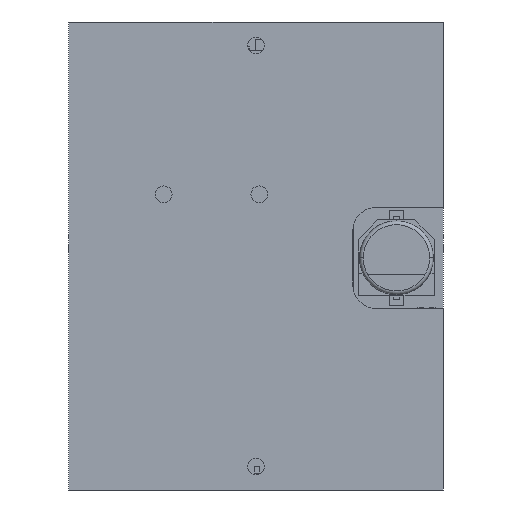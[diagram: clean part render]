
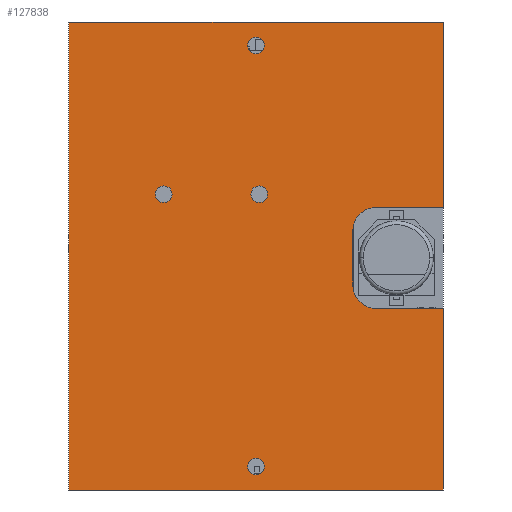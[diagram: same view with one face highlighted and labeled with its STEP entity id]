
A CAD part, front view. The second image highlights one B-rep face of the part: STEP entity #127838.
In plain terms, the highlighted planar face has unit normal (0, -1, 0).
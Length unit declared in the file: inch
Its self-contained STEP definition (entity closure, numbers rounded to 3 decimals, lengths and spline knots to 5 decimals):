
#127273=DIRECTION('',(-1.,0.,0.));
#127274=VECTOR('',#127273,0.358);
#127275=CARTESIAN_POINT('',(2.,0.,-0.28));
#127276=LINE('',#127275,#127274);
#127280=DIRECTION('',(0.,0.,1.));
#127281=VECTOR('',#127280,0.97);
#127282=CARTESIAN_POINT('',(2.,0.,-1.25));
#127283=LINE('',#127282,#127281);
#127287=DIRECTION('',(1.,0.,0.));
#127288=VECTOR('',#127287,2.);
#127289=CARTESIAN_POINT('',(0.,0.,-1.25));
#127290=LINE('',#127289,#127288);
#127294=DIRECTION('',(0.,0.,-1.));
#127295=VECTOR('',#127294,2.5);
#127296=CARTESIAN_POINT('',(0.,0.,1.25));
#127297=LINE('',#127296,#127295);
#127301=DIRECTION('',(-1.,0.,0.));
#127302=VECTOR('',#127301,2.);
#127303=CARTESIAN_POINT('',(2.,0.,1.25));
#127304=LINE('',#127303,#127302);
#127308=DIRECTION('',(0.,0.,1.));
#127309=VECTOR('',#127308,0.99);
#127310=CARTESIAN_POINT('',(2.,0.,0.26));
#127311=LINE('',#127310,#127309);
#127315=DIRECTION('',(1.,0.,0.));
#127316=VECTOR('',#127315,0.358);
#127317=CARTESIAN_POINT('',(1.642,0.,0.26));
#127318=LINE('',#127317,#127316);
#127322=CARTESIAN_POINT('',(1.642,0.,0.135));
#127323=DIRECTION('',(0.,1.,0.));
#127324=DIRECTION('',(-1.,0.,0.));
#127325=AXIS2_PLACEMENT_3D('',#127322,#127323,#127324);
#127330=DIRECTION('',(0.,0.,1.));
#127331=VECTOR('',#127330,0.29);
#127332=CARTESIAN_POINT('',(1.517,0.,-0.155));
#127333=LINE('',#127332,#127331);
#127337=CARTESIAN_POINT('',(1.642,0.,-0.155));
#127338=DIRECTION('',(0.,1.,0.));
#127339=DIRECTION('',(0.,0.,-1.));
#127340=AXIS2_PLACEMENT_3D('',#127337,#127338,#127339);
#127345=CARTESIAN_POINT('',(1.,0.,-1.125));
#127346=DIRECTION('',(0.,1.,0.));
#127347=DIRECTION('',(0.,0.,1.));
#127348=AXIS2_PLACEMENT_3D('',#127345,#127346,#127347);
#127353=CARTESIAN_POINT('',(1.,0.,-1.125));
#127354=DIRECTION('',(0.,1.,0.));
#127355=DIRECTION('',(0.,0.,-1.));
#127356=AXIS2_PLACEMENT_3D('',#127353,#127354,#127355);
#127361=CARTESIAN_POINT('',(0.507,0.,0.33));
#127362=DIRECTION('',(0.,1.,0.));
#127363=DIRECTION('',(0.,0.,1.));
#127364=AXIS2_PLACEMENT_3D('',#127361,#127362,#127363);
#127369=CARTESIAN_POINT('',(0.507,0.,0.33));
#127370=DIRECTION('',(0.,1.,0.));
#127371=DIRECTION('',(0.,0.,-1.));
#127372=AXIS2_PLACEMENT_3D('',#127369,#127370,#127371);
#127377=CARTESIAN_POINT('',(1.017,0.,0.33));
#127378=DIRECTION('',(0.,1.,0.));
#127379=DIRECTION('',(0.,0.,1.));
#127380=AXIS2_PLACEMENT_3D('',#127377,#127378,#127379);
#127385=CARTESIAN_POINT('',(1.017,0.,0.33));
#127386=DIRECTION('',(0.,1.,0.));
#127387=DIRECTION('',(0.,0.,-1.));
#127388=AXIS2_PLACEMENT_3D('',#127385,#127386,#127387);
#127393=CARTESIAN_POINT('',(1.,0.,1.125));
#127394=DIRECTION('',(0.,1.,0.));
#127395=DIRECTION('',(0.,0.,1.));
#127396=AXIS2_PLACEMENT_3D('',#127393,#127394,#127395);
#127401=CARTESIAN_POINT('',(1.,0.,1.125));
#127402=DIRECTION('',(0.,1.,0.));
#127403=DIRECTION('',(0.,0.,-1.));
#127404=AXIS2_PLACEMENT_3D('',#127401,#127402,#127403);
#127600=CARTESIAN_POINT('',(1.517,0.,0.135));
#127601=CARTESIAN_POINT('',(1.642,0.,0.26));
#127602=VERTEX_POINT('',#127600);
#127603=VERTEX_POINT('',#127601);
#127614=CARTESIAN_POINT('',(2.,0.,-0.28));
#127615=CARTESIAN_POINT('',(1.642,0.,-0.28));
#127616=VERTEX_POINT('',#127614);
#127617=VERTEX_POINT('',#127615);
#127618=CARTESIAN_POINT('',(1.017,0.,0.2855));
#127619=CARTESIAN_POINT('',(1.017,0.,0.3745));
#127620=VERTEX_POINT('',#127618);
#127621=VERTEX_POINT('',#127619);
#127626=CARTESIAN_POINT('',(2.,0.,-1.25));
#127627=VERTEX_POINT('',#127626);
#127628=CARTESIAN_POINT('',(1.,0.,1.1695));
#127629=VERTEX_POINT('',#127628);
#127638=CARTESIAN_POINT('',(1.517,0.,-0.155));
#127639=VERTEX_POINT('',#127638);
#127640=CARTESIAN_POINT('',(1.,0.,-1.0805));
#127641=CARTESIAN_POINT('',(1.,0.,-1.1695));
#127642=VERTEX_POINT('',#127640);
#127643=VERTEX_POINT('',#127641);
#127650=CARTESIAN_POINT('',(0.,0.,-1.25));
#127651=VERTEX_POINT('',#127650);
#127652=CARTESIAN_POINT('',(2.,0.,0.26));
#127653=VERTEX_POINT('',#127652);
#127656=CARTESIAN_POINT('',(1.,0.,1.0805));
#127657=VERTEX_POINT('',#127656);
#127660=CARTESIAN_POINT('',(0.,0.,1.25));
#127661=VERTEX_POINT('',#127660);
#127670=CARTESIAN_POINT('',(0.507,0.,0.3745));
#127671=VERTEX_POINT('',#127670);
#127676=CARTESIAN_POINT('',(2.,0.,1.25));
#127677=VERTEX_POINT('',#127676);
#127678=CARTESIAN_POINT('',(0.507,0.,0.2855));
#127679=VERTEX_POINT('',#127678);
#127789=CARTESIAN_POINT('',(0.,0.,1.25));
#127790=DIRECTION('',(0.,1.,0.));
#127791=DIRECTION('',(0.,0.,1.));
#127792=AXIS2_PLACEMENT_3D('',#127789,#127790,#127791);
#127793=PLANE('',#127792);
#127795=ORIENTED_EDGE('',*,*,#127794,.F.);
#127797=ORIENTED_EDGE('',*,*,#127796,.F.);
#127799=ORIENTED_EDGE('',*,*,#127798,.F.);
#127801=ORIENTED_EDGE('',*,*,#127800,.F.);
#127803=ORIENTED_EDGE('',*,*,#127802,.F.);
#127805=ORIENTED_EDGE('',*,*,#127804,.F.);
#127806=ORIENTED_EDGE('',*,*,#127772,.F.);
#127808=ORIENTED_EDGE('',*,*,#127807,.F.);
#127810=ORIENTED_EDGE('',*,*,#127809,.F.);
#127811=ORIENTED_EDGE('',*,*,#127689,.F.);
#127812=EDGE_LOOP('',(#127795,#127797,#127799,#127801,#127803,#127805,#127806,
#127808,#127810,#127811));
#127813=FACE_OUTER_BOUND('',#127812,.F.);
#127815=ORIENTED_EDGE('',*,*,#127814,.F.);
#127817=ORIENTED_EDGE('',*,*,#127816,.F.);
#127818=EDGE_LOOP('',(#127815,#127817));
#127819=FACE_BOUND('',#127818,.F.);
#127821=ORIENTED_EDGE('',*,*,#127820,.F.);
#127823=ORIENTED_EDGE('',*,*,#127822,.F.);
#127824=EDGE_LOOP('',(#127821,#127823));
#127825=FACE_BOUND('',#127824,.F.);
#127827=ORIENTED_EDGE('',*,*,#127826,.F.);
#127829=ORIENTED_EDGE('',*,*,#127828,.F.);
#127830=EDGE_LOOP('',(#127827,#127829));
#127831=FACE_BOUND('',#127830,.F.);
#127833=ORIENTED_EDGE('',*,*,#127832,.F.);
#127835=ORIENTED_EDGE('',*,*,#127834,.F.);
#127836=EDGE_LOOP('',(#127833,#127835));
#127837=FACE_BOUND('',#127836,.F.);
#127326=CIRCLE('',#127325,0.125);
#127341=CIRCLE('',#127340,0.125);
#127349=CIRCLE('',#127348,0.0445);
#127357=CIRCLE('',#127356,0.0445);
#127365=CIRCLE('',#127364,0.0445);
#127373=CIRCLE('',#127372,0.0445);
#127381=CIRCLE('',#127380,0.0445);
#127389=CIRCLE('',#127388,0.0445);
#127397=CIRCLE('',#127396,0.0445);
#127405=CIRCLE('',#127404,0.0445);
#127689=EDGE_CURVE('',#127617,#127639,#127341,.T.);
#127772=EDGE_CURVE('',#127603,#127653,#127318,.T.);
#127794=EDGE_CURVE('',#127616,#127617,#127276,.T.);
#127796=EDGE_CURVE('',#127627,#127616,#127283,.T.);
#127798=EDGE_CURVE('',#127651,#127627,#127290,.T.);
#127800=EDGE_CURVE('',#127661,#127651,#127297,.T.);
#127802=EDGE_CURVE('',#127677,#127661,#127304,.T.);
#127804=EDGE_CURVE('',#127653,#127677,#127311,.T.);
#127807=EDGE_CURVE('',#127602,#127603,#127326,.T.);
#127809=EDGE_CURVE('',#127639,#127602,#127333,.T.);
#127814=EDGE_CURVE('',#127642,#127643,#127349,.T.);
#127816=EDGE_CURVE('',#127643,#127642,#127357,.T.);
#127820=EDGE_CURVE('',#127671,#127679,#127365,.T.);
#127822=EDGE_CURVE('',#127679,#127671,#127373,.T.);
#127826=EDGE_CURVE('',#127621,#127620,#127381,.T.);
#127828=EDGE_CURVE('',#127620,#127621,#127389,.T.);
#127832=EDGE_CURVE('',#127629,#127657,#127397,.T.);
#127834=EDGE_CURVE('',#127657,#127629,#127405,.T.);
#127838=ADVANCED_FACE('',(#127813,#127819,#127825,#127831,#127837),#127793,.F.);
